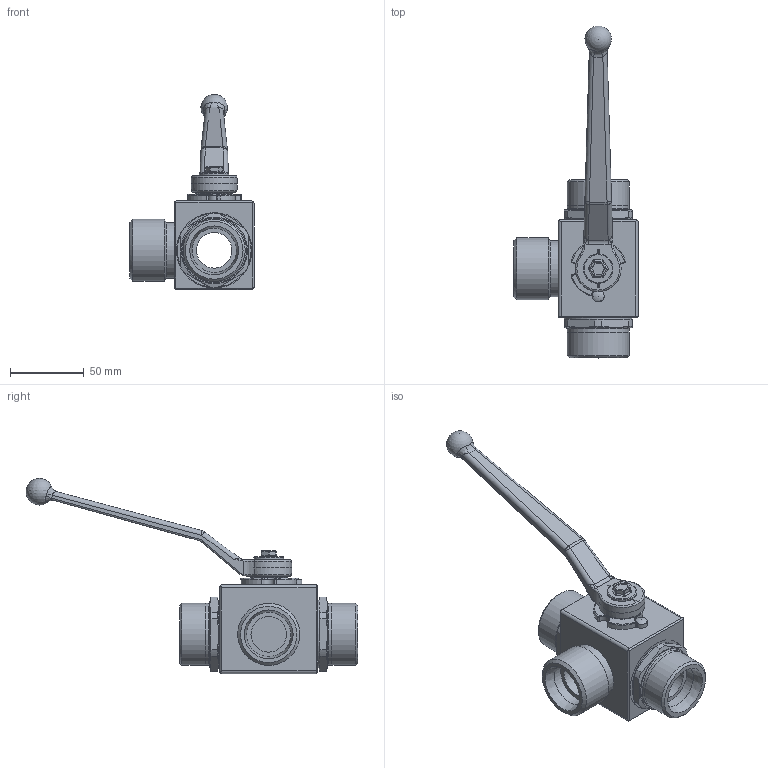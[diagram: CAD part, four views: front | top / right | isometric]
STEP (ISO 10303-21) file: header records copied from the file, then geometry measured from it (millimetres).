
FILE_DESCRIPTION( ( 'Unknown' ), '1' );
FILE_NAME( 'H:/PISTER/3D-MODELLE/BK3 stp/BK3 DN25 30S.stp', 'Unknown', ( 'Unknown' ), ( 'Unknown' ), 'PSStep 14.0', 'Unknown', ' ' );
FILE_SCHEMA( ( 'AUTOMOTIVE_DESIGN { 1 0 10303 214 1 1 1 1 }' ) );
Length unit declared in the file: millimetre
Products named in the file (11): Assem1; 10-025-001; 06-025-186-oa7; 09-14-001; 58-28740-13-oa8; Griff_SW14; 58-0933-147; 04-025-152-oa9; 04-025-152-oa10; 01-025-024-oa11; 04-025-067-oa12
Assembly tree (10 placements, depth 2):
  Assem1
    10-025-001
    06-025-186-oa7
    09-14-001
    58-28740-13-oa8
    Griff_SW14
    58-0933-147
    04-025-152-oa9
    04-025-152-oa10
    01-025-024-oa11
    04-025-067-oa12
Bounding box: 84 x 224.18 x 131.9 mm (x, y, z)
Volume: 124868.1 mm3; surface area: 73513.4 mm2
Topology: 10 solids, 10 shells, 385 faces, 947 edges, 578 vertices
Faces by surface type: plane 133, cylinder 131, torus 46, cone 33, bspline 28, sphere 14
Full cylindrical faces by diameter (mm): 5 x1, 6 x1, 6.5 x1, 7.98 x1, 20 x3, 20.2 x1, 24 x3, 25 x1, 30 x3, 37.8 x1, 38 x1, 42 x5, 43.3 x2, 46 x2, 50 x2, 51 x2
Entity records: 15498 total; most frequent: CARTESIAN_POINT 3668, DIRECTION 1875, ORIENTED_EDGE 1668, EDGE_CURVE 834, AXIS2_PLACEMENT_3D 773, VERTEX_POINT 547, EDGE_LOOP 482, FACE_OUTER_BOUND 430
